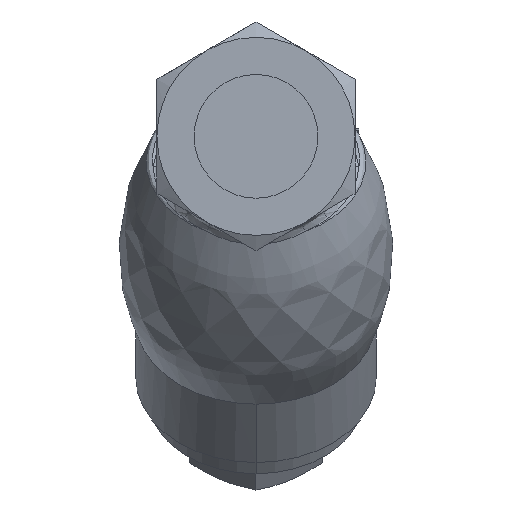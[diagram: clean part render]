
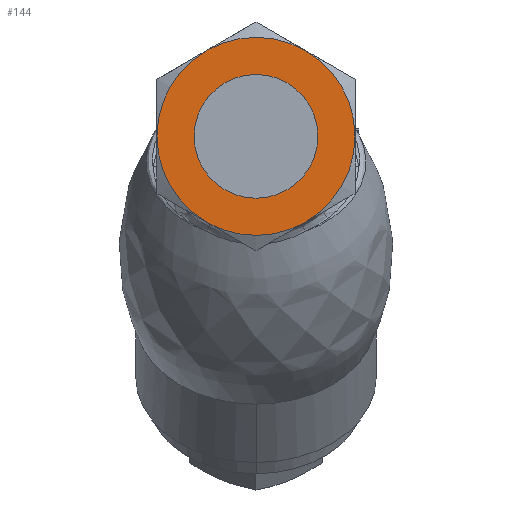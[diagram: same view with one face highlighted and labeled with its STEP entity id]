
A CAD part, left-side view. The second image highlights one B-rep face of the part: STEP entity #144.
In plain terms, the highlighted planar face has unit normal (-1, 0, 0).
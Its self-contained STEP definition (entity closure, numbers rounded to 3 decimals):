
#144=ADVANCED_FACE('',(#549,#550),#548,.F.);
#548=PLANE('',#1976);
#549=FACE_OUTER_BOUND('',#1977,.T.);
#550=FACE_BOUND('',#1978,.T.);
#1973=CARTESIAN_POINT('',(0.,-16.8,19.383));
#1974=DIRECTION('',(1.,0.,0.));
#1975=DIRECTION('',(0.,0.,-1.));
#1976=AXIS2_PLACEMENT_3D('',#1973,#1974,#1975);
#1977=EDGE_LOOP('',(#3040,#3041,#3042,#3043,#3044,#3045,#3046,#3047,#3048));
#1978=EDGE_LOOP('',(#3049,#3050));
#3040=ORIENTED_EDGE('',*,*,#3568,.F.);
#3041=ORIENTED_EDGE('',*,*,#3569,.T.);
#3042=ORIENTED_EDGE('',*,*,#3561,.F.);
#3043=ORIENTED_EDGE('',*,*,#3570,.T.);
#3044=ORIENTED_EDGE('',*,*,#3571,.F.);
#3045=ORIENTED_EDGE('',*,*,#3572,.T.);
#3046=ORIENTED_EDGE('',*,*,#3573,.T.);
#3047=ORIENTED_EDGE('',*,*,#3574,.T.);
#3048=ORIENTED_EDGE('',*,*,#3575,.T.);
#3049=ORIENTED_EDGE('',*,*,#3576,.T.);
#3050=ORIENTED_EDGE('',*,*,#3577,.T.);
#3561=EDGE_CURVE('',#4554,#4512,#4561,.T.);
#3568=EDGE_CURVE('',#4609,#4610,#4611,.T.);
#3569=EDGE_CURVE('',#4609,#4512,#4617,.T.);
#3570=EDGE_CURVE('',#4554,#4623,#4624,.T.);
#3571=EDGE_CURVE('',#4630,#4623,#4631,.T.);
#3572=EDGE_CURVE('',#4630,#4637,#4638,.T.);
#3573=EDGE_CURVE('',#4637,#4644,#4645,.T.);
#3574=EDGE_CURVE('',#4644,#4568,#4651,.T.);
#3575=EDGE_CURVE('',#4568,#4610,#4657,.T.);
#3576=EDGE_CURVE('',#4663,#4664,#4665,.T.);
#3577=EDGE_CURVE('',#4664,#4663,#4671,.T.);
#4512=VERTEX_POINT('',#6460);
#4554=VERTEX_POINT('',#6496);
#4561=LINE('',#6503,#6504);
#4568=VERTEX_POINT('',#6507);
#4609=VERTEX_POINT('',#6546);
#4610=VERTEX_POINT('',#6547);
#4611=LINE('',#6548,#6549);
#4617=CIRCLE('',#6554,14.);
#4623=VERTEX_POINT('',#6555);
#4624=CIRCLE('',#6559,14.);
#4630=VERTEX_POINT('',#6560);
#4631=LINE('',#6561,#6562);
#4637=VERTEX_POINT('',#6564);
#4638=CIRCLE('',#6568,14.);
#4644=VERTEX_POINT('',#6569);
#4645=CIRCLE('',#6573,14.);
#4651=CIRCLE('',#6577,14.);
#4657=CIRCLE('',#6581,14.);
#4663=VERTEX_POINT('',#6582);
#4664=VERTEX_POINT('',#6583);
#4665=CIRCLE('',#6587,8.75);
#4671=CIRCLE('',#6591,8.75);
#6460=CARTESIAN_POINT('',(0.,14.,0.076));
#6496=CARTESIAN_POINT('',(0.,14.,-0.076));
#6503=CARTESIAN_POINT('',(0.,14.,-0.076));
#6504=VECTOR('',#6505,0.152);
#6505=DIRECTION('',(0.,0.,1.));
#6507=CARTESIAN_POINT('',(0.,-7.,12.124));
#6546=CARTESIAN_POINT('',(0.,7.034,12.104));
#6547=CARTESIAN_POINT('',(0.,6.966,12.144));
#6548=CARTESIAN_POINT('',(0.,7.034,12.104));
#6549=VECTOR('',#6550,0.079);
#6550=DIRECTION('',(0.,-0.866,0.5));
#6551=CARTESIAN_POINT('',(0.,0.,0.));
#6552=DIRECTION('',(-1.,0.,0.));
#6553=DIRECTION('',(0.,0.,-1.));
#6554=AXIS2_PLACEMENT_3D('',#6551,#6552,#6553);
#6555=CARTESIAN_POINT('',(0.,7.033,-12.105));
#6556=CARTESIAN_POINT('',(0.,0.,0.));
#6557=DIRECTION('',(-1.,0.,0.));
#6558=DIRECTION('',(0.,0.,1.));
#6559=AXIS2_PLACEMENT_3D('',#6556,#6557,#6558);
#6560=CARTESIAN_POINT('',(0.,6.967,-12.143));
#6561=CARTESIAN_POINT('',(0.,6.967,-12.143));
#6562=VECTOR('',#6563,0.076);
#6563=DIRECTION('',(0.,0.866,0.5));
#6564=CARTESIAN_POINT('',(0.,-7.,-12.124));
#6565=CARTESIAN_POINT('',(0.,0.,0.));
#6566=DIRECTION('',(-1.,0.,0.));
#6567=DIRECTION('',(0.,0.,1.));
#6568=AXIS2_PLACEMENT_3D('',#6565,#6566,#6567);
#6569=CARTESIAN_POINT('',(0.,-14.,0.));
#6570=CARTESIAN_POINT('',(0.,0.,0.));
#6571=DIRECTION('',(-1.,0.,0.));
#6572=DIRECTION('',(0.,0.,1.));
#6573=AXIS2_PLACEMENT_3D('',#6570,#6571,#6572);
#6574=CARTESIAN_POINT('',(0.,0.,0.));
#6575=DIRECTION('',(-1.,0.,0.));
#6576=DIRECTION('',(0.,0.,1.));
#6577=AXIS2_PLACEMENT_3D('',#6574,#6575,#6576);
#6578=CARTESIAN_POINT('',(0.,0.,0.));
#6579=DIRECTION('',(-1.,0.,0.));
#6580=DIRECTION('',(0.,0.498,0.867));
#6581=AXIS2_PLACEMENT_3D('',#6578,#6579,#6580);
#6582=CARTESIAN_POINT('',(0.,0.,8.75));
#6583=CARTESIAN_POINT('',(0.,0.,-8.75));
#6584=CARTESIAN_POINT('',(0.,0.,0.));
#6585=DIRECTION('',(1.,0.,0.));
#6586=DIRECTION('',(0.,0.,1.));
#6587=AXIS2_PLACEMENT_3D('',#6584,#6585,#6586);
#6588=CARTESIAN_POINT('',(0.,0.,0.));
#6589=DIRECTION('',(1.,0.,0.));
#6590=DIRECTION('',(0.,0.,1.));
#6591=AXIS2_PLACEMENT_3D('',#6588,#6589,#6590);
